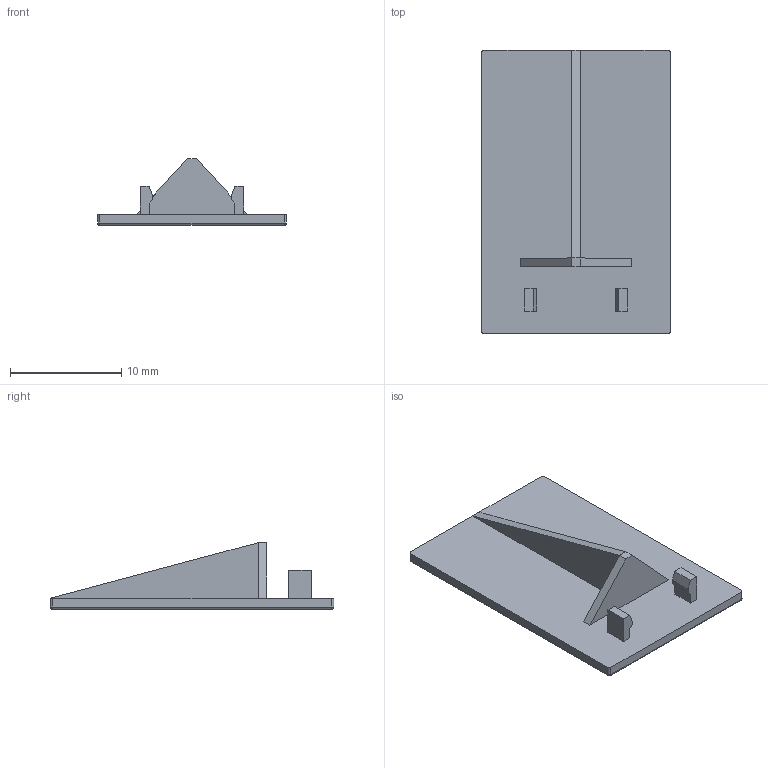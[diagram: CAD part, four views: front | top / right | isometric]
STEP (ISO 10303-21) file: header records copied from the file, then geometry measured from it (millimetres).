
FILE_DESCRIPTION(('STEP AP214'),'2;1');
FILE_NAME('01901.stp','2011-05-17T11:18:26',(''),(''),'2007.1.106','THINKDESIGN','');
FILE_SCHEMA(('AUTOMOTIVE_DESIGN'));
Length unit declared in the file: millimetre
Products named in the file (1): None
Bounding box: 17 x 25.5 x 6 mm (x, y, z)
Surface area: 1120 mm2 (no closed solid volume)
Topology: 0 solids, 0 shells, 41 faces, 194 edges, 190 vertices
Faces by surface type: plane 26, cylinder 8, bspline 7
Entity records: 2387 total; most frequent: CARTESIAN_POINT 896, DIRECTION 246, COMPOSITE_CURVE_SEGMENT 190, TRIMMED_CURVE 162, VECTOR 146, LINE 146, AXIS2_PLACEMENT_3D 50, OUTER_BOUNDARY_CURVE 41
